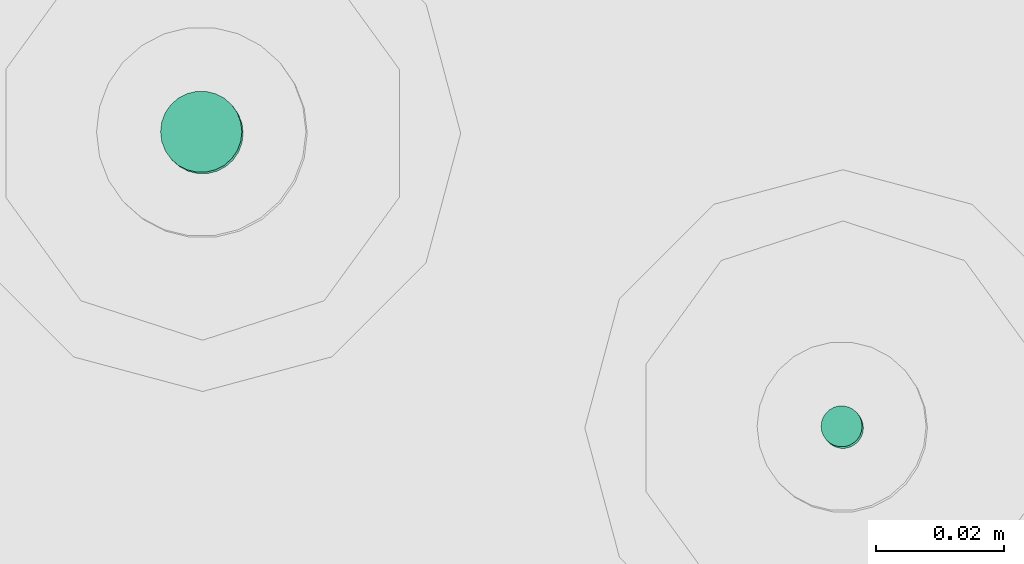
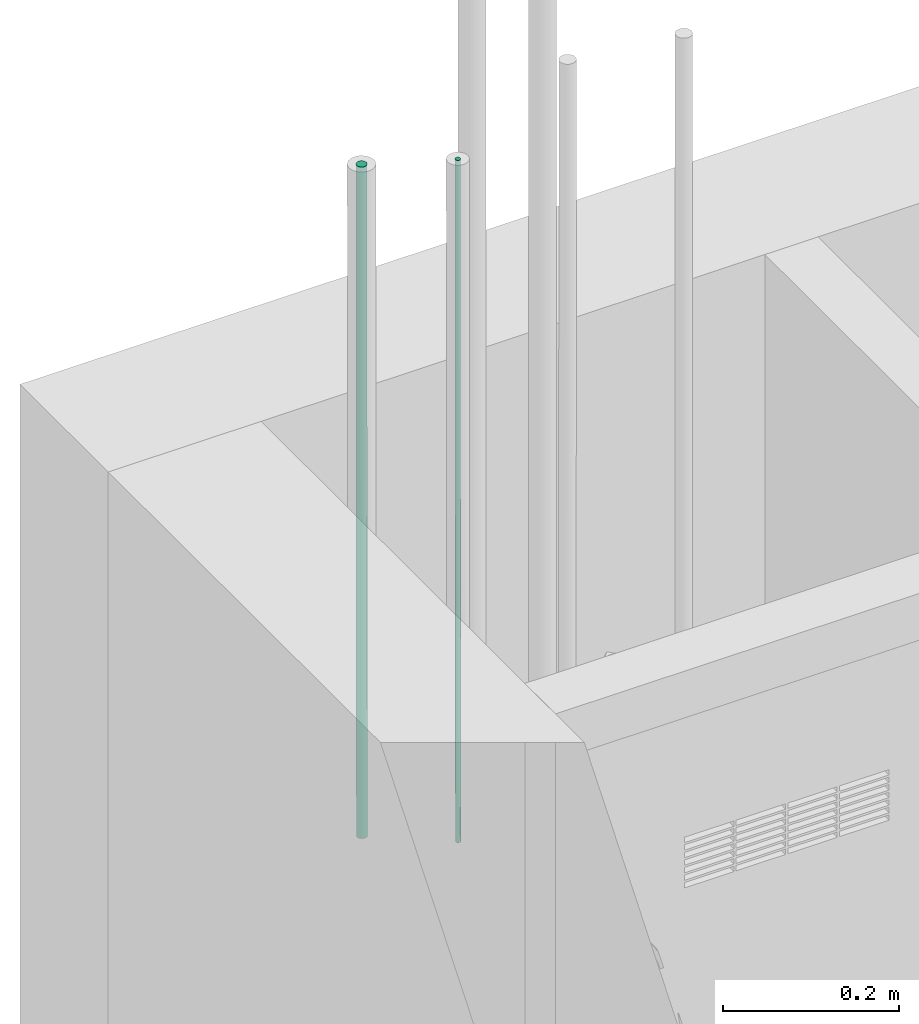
# One storey, part 4 of 8: 2 flow segments.
"""IFC2X3 building model written with IfcOpenShell, lengths in metres."""

from ifc_helpers import new_model, entity, si_unit, converted_unit, derived_unit, direction, frame, origin, origin_2d_with_axis, place, context, subcontext, project, spatial, circle, extrude, type_object, element, save


model = new_model("IFC2X3")

# Units and contexts
model_context = context("Model", 3, precision=1e-05, world=origin(), true_north=direction((6.123031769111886e-17, 1.0)))
body_context = subcontext(model_context, "Body", "Model", "MODEL_VIEW")
ifc_project = project(units=[si_unit("LENGTHUNIT", "METRE"), si_unit("AREAUNIT", "SQUARE_METRE"), si_unit("VOLUMEUNIT", "CUBIC_METRE"), converted_unit("PLANEANGLEUNIT", "DEGREE", entity("IfcPlaneAngleMeasure", 0.017453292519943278), si_unit("PLANEANGLEUNIT", "RADIAN"), dimensions=[0, 0, 0, 0, 0, 0, 0]), si_unit("MASSUNIT", "GRAM", prefix="KILO"), derived_unit("MASSDENSITYUNIT", [(si_unit("MASSUNIT", "GRAM", prefix="KILO"), 1), (si_unit("LENGTHUNIT", "METRE"), -3)]), derived_unit("IONCONCENTRATIONUNIT", [(si_unit("MASSUNIT", "GRAM", prefix="KILO"), 1), (si_unit("LENGTHUNIT", "METRE"), -3)]), derived_unit("MOMENTOFINERTIAUNIT", [(si_unit("LENGTHUNIT", "METRE"), 4)]), si_unit("TIMEUNIT", "SECOND"), si_unit("FREQUENCYUNIT", "HERTZ"), si_unit("THERMODYNAMICTEMPERATUREUNIT", "DEGREE_CELSIUS"), derived_unit("THERMALTRANSMITTANCEUNIT", [(si_unit("MASSUNIT", "GRAM", prefix="KILO"), 1), (si_unit("THERMODYNAMICTEMPERATUREUNIT", "KELVIN"), -1), (si_unit("TIMEUNIT", "SECOND"), -3)]), derived_unit("THERMALCONDUCTANCEUNIT", [(si_unit("MASSUNIT", "GRAM", prefix="KILO"), 1), (si_unit("THERMODYNAMICTEMPERATUREUNIT", "KELVIN"), -1), (si_unit("TIMEUNIT", "SECOND"), -3), (si_unit("LENGTHUNIT", "METRE"), 1)]), derived_unit("VOLUMETRICFLOWRATEUNIT", [(si_unit("LENGTHUNIT", "METRE", prefix="DECI"), 3), (si_unit("TIMEUNIT", "SECOND"), -1)]), derived_unit("MASSFLOWRATEUNIT", [(si_unit("MASSUNIT", "GRAM", prefix="KILO"), 1), (si_unit("TIMEUNIT", "SECOND"), -1)]), derived_unit("ROTATIONALFREQUENCYUNIT", [(si_unit("TIMEUNIT", "SECOND"), -1)]), si_unit("ELECTRICCURRENTUNIT", "AMPERE"), si_unit("ELECTRICVOLTAGEUNIT", "VOLT"), si_unit("POWERUNIT", "WATT"), si_unit("FORCEUNIT", "NEWTON", prefix="KILO"), si_unit("ILLUMINANCEUNIT", "LUX"), si_unit("LUMINOUSFLUXUNIT", "LUMEN"), si_unit("LUMINOUSINTENSITYUNIT", "CANDELA"), si_unit("ENERGYUNIT", "JOULE"), derived_unit("USERDEFINED", [(si_unit("MASSUNIT", "GRAM", prefix="KILO"), -1), (si_unit("LENGTHUNIT", "METRE"), -2), (si_unit("TIMEUNIT", "SECOND"), 3), (si_unit("LUMINOUSFLUXUNIT", "LUMEN"), 1)]), derived_unit("USERDEFINED", [(si_unit("MASSUNIT", "GRAM", prefix="KILO"), 1), (si_unit("TIMEUNIT", "SECOND"), -3), (si_unit("LENGTHUNIT", "METRE"), 3), (si_unit("ELECTRICCURRENTUNIT", "AMPERE"), -2)]), derived_unit("SOUNDPOWERUNIT", [(si_unit("MASSUNIT", "GRAM", prefix="KILO"), 1), (si_unit("TIMEUNIT", "SECOND"), -3), (si_unit("LENGTHUNIT", "METRE"), 2)]), derived_unit("SOUNDPRESSUREUNIT", [(si_unit("MASSUNIT", "GRAM", prefix="KILO"), 1), (si_unit("LENGTHUNIT", "METRE"), -1), (si_unit("TIMEUNIT", "SECOND"), -2)]), derived_unit("LINEARVELOCITYUNIT", [(si_unit("LENGTHUNIT", "METRE"), 1), (si_unit("TIMEUNIT", "SECOND"), -1)]), si_unit("PRESSUREUNIT", "PASCAL"), derived_unit("USERDEFINED", [(si_unit("MASSUNIT", "GRAM", prefix="KILO"), 1), (si_unit("LENGTHUNIT", "METRE"), -2), (si_unit("TIMEUNIT", "SECOND"), -2)]), derived_unit("LINEARFORCEUNIT", [(si_unit("MASSUNIT", "GRAM", prefix="KILO"), 1), (si_unit("TIMEUNIT", "SECOND"), -2)]), derived_unit("PLANARFORCEUNIT", [(si_unit("MASSUNIT", "GRAM", prefix="KILO"), 1), (si_unit("LENGTHUNIT", "METRE"), -1), (si_unit("TIMEUNIT", "SECOND"), -2)]), derived_unit("SPECIFICHEATCAPACITYUNIT", [(si_unit("THERMODYNAMICTEMPERATUREUNIT", "KELVIN"), -1), (si_unit("LENGTHUNIT", "METRE"), 2), (si_unit("TIMEUNIT", "SECOND"), -2)]), derived_unit("HEATFLUXDENSITYUNIT", [(si_unit("MASSUNIT", "GRAM", prefix="KILO"), 1), (si_unit("TIMEUNIT", "SECOND"), -3)]), derived_unit("HEATINGVALUEUNIT", [(si_unit("LENGTHUNIT", "METRE"), 2), (si_unit("TIMEUNIT", "SECOND"), -2)]), derived_unit("VAPORPERMEABILITYUNIT", [(si_unit("LENGTHUNIT", "METRE"), -1), (si_unit("TIMEUNIT", "SECOND"), 1)]), derived_unit("DYNAMICVISCOSITYUNIT", [(si_unit("MASSUNIT", "GRAM", prefix="KILO"), 1), (si_unit("TIMEUNIT", "SECOND"), -1), (si_unit("LENGTHUNIT", "METRE"), -1)]), derived_unit("THERMALEXPANSIONCOEFFICIENTUNIT", [(si_unit("THERMODYNAMICTEMPERATUREUNIT", "KELVIN"), -1)]), derived_unit("MODULUSOFELASTICITYUNIT", [(si_unit("MASSUNIT", "GRAM", prefix="KILO"), 1), (si_unit("LENGTHUNIT", "METRE"), -1), (si_unit("TIMEUNIT", "SECOND"), -2)]), derived_unit("ISOTHERMALMOISTURECAPACITYUNIT", [(si_unit("MASSUNIT", "GRAM", prefix="KILO"), -1), (si_unit("LENGTHUNIT", "METRE"), 3)]), derived_unit("MOISTUREDIFFUSIVITYUNIT", [(si_unit("TIMEUNIT", "SECOND"), -1), (si_unit("LENGTHUNIT", "METRE"), 2)]), derived_unit("MASSPERLENGTHUNIT", [(si_unit("MASSUNIT", "GRAM", prefix="KILO"), 1), (si_unit("LENGTHUNIT", "METRE"), -1)]), derived_unit("THERMALRESISTANCEUNIT", [(si_unit("MASSUNIT", "GRAM", prefix="KILO"), -1), (si_unit("TIMEUNIT", "SECOND"), 3), (si_unit("THERMODYNAMICTEMPERATUREUNIT", "KELVIN"), 1)]), derived_unit("ACCELERATIONUNIT", [(si_unit("LENGTHUNIT", "METRE"), 1), (si_unit("TIMEUNIT", "SECOND"), -2)]), derived_unit("ANGULARVELOCITYUNIT", [(si_unit("TIMEUNIT", "SECOND"), -1), (si_unit("PLANEANGLEUNIT", "RADIAN"), 1)]), derived_unit("LINEARSTIFFNESSUNIT", [(si_unit("MASSUNIT", "GRAM", prefix="KILO"), 1), (si_unit("TIMEUNIT", "SECOND"), -2)]), derived_unit("WARPINGCONSTANTUNIT", [(si_unit("LENGTHUNIT", "METRE"), 6)]), derived_unit("LINEARMOMENTUNIT", [(si_unit("MASSUNIT", "GRAM", prefix="KILO"), 1), (si_unit("LENGTHUNIT", "METRE"), 1), (si_unit("TIMEUNIT", "SECOND"), -2)]), derived_unit("TORQUEUNIT", [(si_unit("MASSUNIT", "GRAM", prefix="KILO"), 1), (si_unit("LENGTHUNIT", "METRE"), 2), (si_unit("TIMEUNIT", "SECOND"), -2)])], contexts=[model_context])

# Site, building, storey
site_placement = place(None, origin())
site = spatial("IfcSite", under=ifc_project, at=site_placement, Name="Default", CompositionType="ELEMENT")
building_placement = place(site_placement, origin())
building = spatial("IfcBuilding", under=site, at=building_placement, CompositionType="ELEMENT")
storey_placement = place(building_placement, origin())
storey = spatial("IfcBuildingStorey", under=building, at=storey_placement, Name="Niveau 0", CompositionType="ELEMENT", Elevation=-1.949160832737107e-14)

# Flow segments
pipe_segment_type = type_object("IfcPipeSegmentType", Name="Canalisation:Cuivre Frigo", PredefinedType="NOTDEFINED")
flow_segment_1_placement = place(storey_placement, origin())
element("IfcFlowSegment", 1, at=flow_segment_1_placement, inside=storey, type_object=pipe_segment_type, Name="Canalisation:Cuivre Frigo", ObjectType="Canalisation:Cuivre Frigo", context=body_context, shape_type="SweptSolid", body=[
    extrude(circle(Radius=0.0032, at=origin_2d_with_axis()), frame((-8.619107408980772, 2.7202781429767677, 1.9300000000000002), z_axis=(-0.000217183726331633, 0.0002617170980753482, 0.9999999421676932), x_axis=(-0.9999999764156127, 0.0, -0.0002171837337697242)), (0.0, 0.0, 1.0), 0.9488616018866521),
])
flow_segment_2_placement = place(storey_placement, origin())
element("IfcFlowSegment", 2, at=flow_segment_2_placement, inside=storey, type_object=pipe_segment_type, Name="Canalisation:Cuivre Frigo", ObjectType="Canalisation:Cuivre Frigo", context=body_context, shape_type="SweptSolid", body=[
    extrude(circle(Radius=0.00635, at=origin_2d_with_axis()), frame((-8.719107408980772, 2.7662947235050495, 1.9449999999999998), z_axis=(-0.0002207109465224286, 0.00024816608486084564, 0.999999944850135), x_axis=(-0.9999999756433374, 0.0, -0.00022071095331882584)), (0.0, 0.0, 1.0), 0.9338615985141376),
])

save(model, "model.ifc")
